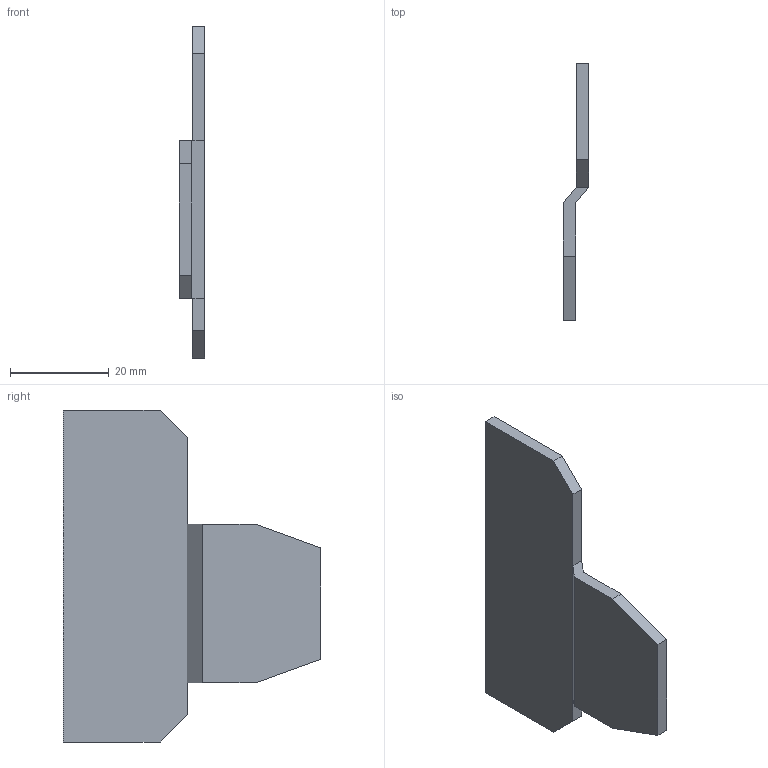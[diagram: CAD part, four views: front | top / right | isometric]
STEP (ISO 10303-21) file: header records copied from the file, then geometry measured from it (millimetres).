
FILE_DESCRIPTION( ('This file contains a STEP AP42 implementation' ,'as created by ZW3D STEP Interface translator.') ,'2;1' );
FILE_NAME( 'D-RUKKB-3-5_3D.stp' ,'23 722.151334', (''), ('ZWCAD Software Co.'), 'Version 1.0', 'ZW3D to STEP translator', '' );
FILE_SCHEMA(('AUTOMOTIVE_DESIGN { 1 0 10303 214 1 1 1 1 }'));
Length unit declared in the file: millimetre
Products named in the file (2): 0; D_UKKB_3_5-select
Bounding box: 5.1 x 52 x 67.15 mm (x, y, z)
Volume: 6133.9 mm3; surface area: 5526.7 mm2
Topology: 1 solids, 1 shells, 18 faces, 44 edges, 28 vertices
Faces by surface type: plane 18
Entity records: 564 total; most frequent: CARTESIAN_POINT 91, ORIENTED_EDGE 88, DIRECTION 82, VECTOR 44, LINE 44, EDGE_CURVE 44, VERTEX_POINT 28, AXIS2_PLACEMENT_3D 19
